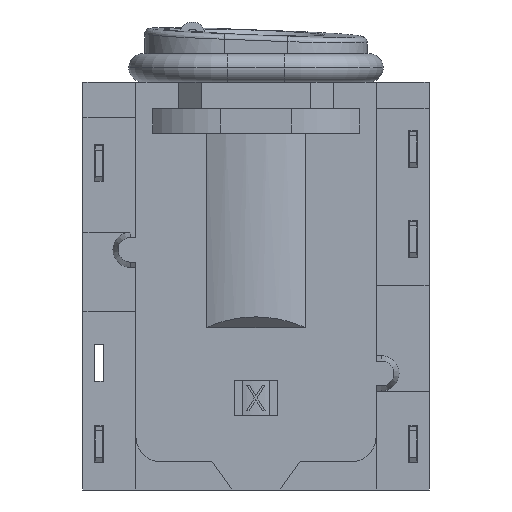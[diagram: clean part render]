
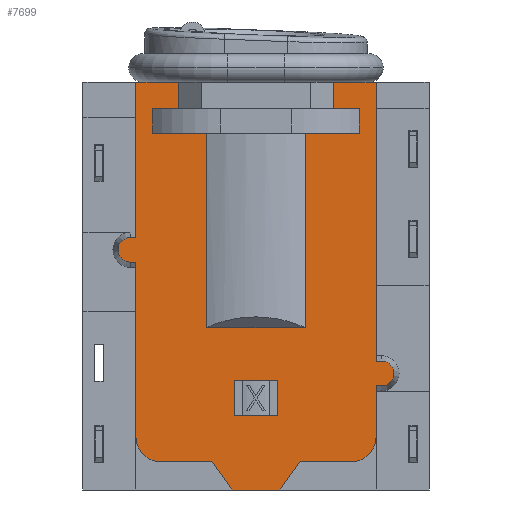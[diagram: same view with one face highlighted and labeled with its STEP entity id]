
A CAD part, front view. The second image highlights one B-rep face of the part: STEP entity #7699.
In plain terms, the highlighted planar face has unit normal (0, -1, 0).
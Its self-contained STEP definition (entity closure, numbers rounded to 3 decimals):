
#1677=DIRECTION('',(-1.,0.,0.));
#1678=VECTOR('',#1677,1.2);
#1679=CARTESIAN_POINT('',(0.6,-1.8,-5.05));
#1680=LINE('',#1679,#1678);
#1681=DIRECTION('',(0.,0.,-1.));
#1682=VECTOR('',#1681,1.);
#1683=CARTESIAN_POINT('',(0.6,-1.8,-4.05));
#1684=LINE('',#1683,#1682);
#1685=DIRECTION('',(1.,0.,0.));
#1686=VECTOR('',#1685,1.2);
#1687=CARTESIAN_POINT('',(-0.6,-1.8,-4.05));
#1688=LINE('',#1687,#1686);
#1689=DIRECTION('',(0.,0.,1.));
#1690=VECTOR('',#1689,1.);
#1691=CARTESIAN_POINT('',(-0.6,-1.8,-5.05));
#1692=LINE('',#1691,#1690);
#1693=DIRECTION('',(1.,0.,0.));
#1694=VECTOR('',#1693,1.2);
#1695=CARTESIAN_POINT('',(2.2,-1.8,4.4));
#1696=LINE('',#1695,#1694);
#1697=DIRECTION('',(0.,0.,-1.));
#1698=VECTOR('',#1697,7.9);
#1699=CARTESIAN_POINT('',(3.4,-1.8,4.4));
#1700=LINE('',#1699,#1698);
#1701=DIRECTION('',(0.,0.,-1.));
#1702=VECTOR('',#1701,1.45);
#1703=CARTESIAN_POINT('',(3.4,-1.8,-4.2));
#1704=LINE('',#1703,#1702);
#1705=CARTESIAN_POINT('',(2.7,-1.8,-5.65));
#1706=DIRECTION('',(0.,1.,0.));
#1707=DIRECTION('',(1.,0.,0.));
#1708=AXIS2_PLACEMENT_3D('',#1705,#1706,#1707);
#1710=DIRECTION('',(-1.,0.,0.));
#1711=VECTOR('',#1710,1.45);
#1712=CARTESIAN_POINT('',(2.7,-1.8,-6.35));
#1713=LINE('',#1712,#1711);
#1714=DIRECTION('',(-0.584,0.,-0.812));
#1715=VECTOR('',#1714,0.985);
#1716=CARTESIAN_POINT('',(1.25,-1.8,-6.35));
#1717=LINE('',#1716,#1715);
#1718=DIRECTION('',(-1.,0.,0.));
#1719=VECTOR('',#1718,1.35);
#1720=CARTESIAN_POINT('',(0.675,-1.8,-7.15));
#1721=LINE('',#1720,#1719);
#1722=DIRECTION('',(-0.584,0.,0.812));
#1723=VECTOR('',#1722,0.985);
#1724=CARTESIAN_POINT('',(-0.675,-1.8,-7.15));
#1725=LINE('',#1724,#1723);
#1726=DIRECTION('',(-1.,0.,0.));
#1727=VECTOR('',#1726,1.45);
#1728=CARTESIAN_POINT('',(-1.25,-1.8,-6.35));
#1729=LINE('',#1728,#1727);
#1730=CARTESIAN_POINT('',(-2.7,-1.8,-5.65));
#1731=DIRECTION('',(0.,1.,0.));
#1732=DIRECTION('',(0.,0.,-1.));
#1733=AXIS2_PLACEMENT_3D('',#1730,#1731,#1732);
#1735=DIRECTION('',(0.,0.,1.));
#1736=VECTOR('',#1735,4.95);
#1737=CARTESIAN_POINT('',(-3.4,-1.8,-5.65));
#1738=LINE('',#1737,#1736);
#1739=DIRECTION('',(0.,0.,1.));
#1740=VECTOR('',#1739,4.4);
#1741=CARTESIAN_POINT('',(-3.4,-1.8,0.));
#1742=LINE('',#1741,#1740);
#1743=DIRECTION('',(1.,0.,0.));
#1744=VECTOR('',#1743,1.2);
#1745=CARTESIAN_POINT('',(-3.4,-1.8,4.4));
#1746=LINE('',#1745,#1744);
#1747=DIRECTION('',(0.,0.,-1.));
#1748=VECTOR('',#1747,0.75);
#1749=CARTESIAN_POINT('',(-2.2,-1.8,4.4));
#1750=LINE('',#1749,#1748);
#1751=DIRECTION('',(0.,0.,-1.));
#1752=VECTOR('',#1751,0.75);
#1753=CARTESIAN_POINT('',(2.2,-1.8,4.4));
#1754=LINE('',#1753,#1752);
#2025=DIRECTION('',(-1.,0.,0.));
#2026=VECTOR('',#2025,0.15);
#2027=CARTESIAN_POINT('',(3.55,-1.8,-4.2));
#2028=LINE('',#2027,#2026);
#2041=CARTESIAN_POINT('',(3.55,-1.8,-3.85));
#2042=DIRECTION('',(0.,1.,0.));
#2043=DIRECTION('',(0.,0.,1.));
#2044=AXIS2_PLACEMENT_3D('',#2041,#2042,#2043);
#2051=DIRECTION('',(1.,0.,0.));
#2052=VECTOR('',#2051,0.15);
#2053=CARTESIAN_POINT('',(3.4,-1.8,-3.5));
#2054=LINE('',#2053,#2052);
#2136=DIRECTION('',(1.,0.,0.));
#2137=VECTOR('',#2136,0.15);
#2138=CARTESIAN_POINT('',(-3.55,-1.8,0.));
#2139=LINE('',#2138,#2137);
#2152=CARTESIAN_POINT('',(-3.55,-1.8,-0.35));
#2153=DIRECTION('',(0.,1.,0.));
#2154=DIRECTION('',(0.,0.,-1.));
#2155=AXIS2_PLACEMENT_3D('',#2152,#2153,#2154);
#2162=DIRECTION('',(-1.,0.,0.));
#2163=VECTOR('',#2162,0.15);
#2164=CARTESIAN_POINT('',(-3.4,-1.8,-0.7));
#2165=LINE('',#2164,#2163);
#4047=DIRECTION('',(1.,0.,0.));
#4048=VECTOR('',#4047,0.721);
#4049=CARTESIAN_POINT('',(2.2,-1.8,3.65));
#4050=LINE('',#4049,#4048);
#4061=DIRECTION('',(1.,0.,0.));
#4062=VECTOR('',#4061,0.721);
#4063=CARTESIAN_POINT('',(-2.921,-1.8,3.65));
#4064=LINE('',#4063,#4062);
#4069=DIRECTION('',(0.,0.,1.));
#4070=VECTOR('',#4069,0.7);
#4071=CARTESIAN_POINT('',(2.921,-1.8,2.95));
#4072=LINE('',#4071,#4070);
#4082=DIRECTION('',(-1.,0.,0.));
#4083=VECTOR('',#4082,1.525);
#4084=CARTESIAN_POINT('',(2.921,-1.8,2.95));
#4085=LINE('',#4084,#4083);
#4091=DIRECTION('',(-1.,0.,0.));
#4092=VECTOR('',#4091,1.525);
#4093=CARTESIAN_POINT('',(-1.396,-1.8,2.95));
#4094=LINE('',#4093,#4092);
#4100=DIRECTION('',(0.,0.,1.));
#4101=VECTOR('',#4100,5.5);
#4102=CARTESIAN_POINT('',(-1.396,-1.8,-2.55));
#4103=LINE('',#4102,#4101);
#4104=DIRECTION('',(0.,0.,-1.));
#4105=VECTOR('',#4104,5.5);
#4106=CARTESIAN_POINT('',(1.396,-1.8,2.95));
#4107=LINE('',#4106,#4105);
#4116=DIRECTION('',(1.,0.,0.));
#4117=VECTOR('',#4116,2.793);
#4118=CARTESIAN_POINT('',(-1.396,-1.8,-2.55));
#4119=LINE('',#4118,#4117);
#4124=DIRECTION('',(0.,0.,-1.));
#4125=VECTOR('',#4124,0.7);
#4126=CARTESIAN_POINT('',(-2.921,-1.8,3.65));
#4127=LINE('',#4126,#4125);
#4494=CARTESIAN_POINT('',(-0.6,-1.8,-5.05));
#4495=CARTESIAN_POINT('',(-0.6,-1.8,-4.05));
#4496=VERTEX_POINT('',#4494);
#4497=VERTEX_POINT('',#4495);
#4512=CARTESIAN_POINT('',(0.6,-1.8,-4.05));
#4513=VERTEX_POINT('',#4512);
#4518=CARTESIAN_POINT('',(0.6,-1.8,-5.05));
#4519=VERTEX_POINT('',#4518);
#4558=CARTESIAN_POINT('',(-1.396,-1.8,-2.55));
#4559=CARTESIAN_POINT('',(1.396,-1.8,-2.55));
#4560=VERTEX_POINT('',#4558);
#4561=VERTEX_POINT('',#4559);
#4811=CARTESIAN_POINT('',(2.7,-1.8,-6.35));
#4812=CARTESIAN_POINT('',(1.25,-1.8,-6.35));
#4813=VERTEX_POINT('',#4811);
#4814=VERTEX_POINT('',#4812);
#4815=CARTESIAN_POINT('',(0.675,-1.8,-7.15));
#4816=VERTEX_POINT('',#4815);
#4817=CARTESIAN_POINT('',(-0.675,-1.8,-7.15));
#4818=VERTEX_POINT('',#4817);
#4819=CARTESIAN_POINT('',(-1.25,-1.8,-6.35));
#4820=VERTEX_POINT('',#4819);
#4821=CARTESIAN_POINT('',(-2.7,-1.8,-6.35));
#4822=VERTEX_POINT('',#4821);
#4823=CARTESIAN_POINT('',(3.4,-1.8,-5.65));
#4824=VERTEX_POINT('',#4823);
#4825=CARTESIAN_POINT('',(-3.4,-1.8,-5.65));
#4826=VERTEX_POINT('',#4825);
#4827=CARTESIAN_POINT('',(3.4,-1.8,4.4));
#4828=VERTEX_POINT('',#4827);
#4829=CARTESIAN_POINT('',(-3.4,-1.8,4.4));
#4830=VERTEX_POINT('',#4829);
#4831=CARTESIAN_POINT('',(-3.55,-1.8,-0.7));
#4832=CARTESIAN_POINT('',(-3.55,-1.8,0.));
#4833=VERTEX_POINT('',#4831);
#4834=VERTEX_POINT('',#4832);
#4839=CARTESIAN_POINT('',(-3.4,-1.8,0.));
#4840=VERTEX_POINT('',#4839);
#4843=CARTESIAN_POINT('',(-3.4,-1.8,-0.7));
#4844=VERTEX_POINT('',#4843);
#4847=CARTESIAN_POINT('',(3.55,-1.8,-3.5));
#4848=CARTESIAN_POINT('',(3.55,-1.8,-4.2));
#4849=VERTEX_POINT('',#4847);
#4850=VERTEX_POINT('',#4848);
#4855=CARTESIAN_POINT('',(3.4,-1.8,-4.2));
#4856=VERTEX_POINT('',#4855);
#4859=CARTESIAN_POINT('',(3.4,-1.8,-3.5));
#4860=VERTEX_POINT('',#4859);
#4863=CARTESIAN_POINT('',(2.921,-1.8,2.95));
#4864=CARTESIAN_POINT('',(1.396,-1.8,2.95));
#4865=VERTEX_POINT('',#4863);
#4866=VERTEX_POINT('',#4864);
#4867=CARTESIAN_POINT('',(-1.396,-1.8,2.95));
#4868=CARTESIAN_POINT('',(-2.921,-1.8,2.95));
#4869=VERTEX_POINT('',#4867);
#4870=VERTEX_POINT('',#4868);
#4871=CARTESIAN_POINT('',(2.921,-1.8,3.65));
#4872=VERTEX_POINT('',#4871);
#4873=CARTESIAN_POINT('',(-2.921,-1.8,3.65));
#4874=VERTEX_POINT('',#4873);
#4899=CARTESIAN_POINT('',(2.2,-1.8,4.4));
#4901=VERTEX_POINT('',#4899);
#4904=CARTESIAN_POINT('',(-2.2,-1.8,4.4));
#4906=VERTEX_POINT('',#4904);
#4907=CARTESIAN_POINT('',(2.2,-1.8,3.65));
#4908=VERTEX_POINT('',#4907);
#4909=CARTESIAN_POINT('',(-2.2,-1.8,3.65));
#4910=VERTEX_POINT('',#4909);
#7625=CARTESIAN_POINT('',(3.55,-1.8,-3.85));
#7626=DIRECTION('',(0.,1.,0.));
#7627=DIRECTION('',(0.,0.,1.));
#7628=AXIS2_PLACEMENT_3D('',#7625,#7626,#7627);
#7629=PLANE('',#7628);
#7630=ORIENTED_EDGE('',*,*,#7558,.T.);
#7632=ORIENTED_EDGE('',*,*,#7631,.T.);
#7634=ORIENTED_EDGE('',*,*,#7633,.T.);
#7636=ORIENTED_EDGE('',*,*,#7635,.T.);
#7638=ORIENTED_EDGE('',*,*,#7637,.T.);
#7640=ORIENTED_EDGE('',*,*,#7639,.T.);
#7642=ORIENTED_EDGE('',*,*,#7641,.T.);
#7644=ORIENTED_EDGE('',*,*,#7643,.T.);
#7646=ORIENTED_EDGE('',*,*,#7645,.T.);
#7648=ORIENTED_EDGE('',*,*,#7647,.T.);
#7650=ORIENTED_EDGE('',*,*,#7649,.T.);
#7652=ORIENTED_EDGE('',*,*,#7651,.T.);
#7654=ORIENTED_EDGE('',*,*,#7653,.T.);
#7656=ORIENTED_EDGE('',*,*,#7655,.T.);
#7658=ORIENTED_EDGE('',*,*,#7657,.T.);
#7660=ORIENTED_EDGE('',*,*,#7659,.T.);
#7662=ORIENTED_EDGE('',*,*,#7661,.T.);
#7664=ORIENTED_EDGE('',*,*,#7663,.T.);
#7665=ORIENTED_EDGE('',*,*,#7534,.T.);
#7667=ORIENTED_EDGE('',*,*,#7666,.T.);
#7669=ORIENTED_EDGE('',*,*,#7668,.F.);
#7671=ORIENTED_EDGE('',*,*,#7670,.T.);
#7673=ORIENTED_EDGE('',*,*,#7672,.F.);
#7675=ORIENTED_EDGE('',*,*,#7674,.F.);
#7677=ORIENTED_EDGE('',*,*,#7676,.T.);
#7679=ORIENTED_EDGE('',*,*,#7678,.F.);
#7681=ORIENTED_EDGE('',*,*,#7680,.F.);
#7683=ORIENTED_EDGE('',*,*,#7682,.T.);
#7685=ORIENTED_EDGE('',*,*,#7684,.F.);
#7686=ORIENTED_EDGE('',*,*,#7616,.F.);
#7687=EDGE_LOOP('',(#7630,#7632,#7634,#7636,#7638,#7640,#7642,#7644,#7646,#7648,
#7650,#7652,#7654,#7656,#7658,#7660,#7662,#7664,#7665,#7667,#7669,#7671,#7673,
#7675,#7677,#7679,#7681,#7683,#7685,#7686));
#7688=FACE_OUTER_BOUND('',#7687,.F.);
#7690=ORIENTED_EDGE('',*,*,#7689,.F.);
#7692=ORIENTED_EDGE('',*,*,#7691,.F.);
#7694=ORIENTED_EDGE('',*,*,#7693,.F.);
#7696=ORIENTED_EDGE('',*,*,#7695,.F.);
#7697=EDGE_LOOP('',(#7690,#7692,#7694,#7696));
#7698=FACE_BOUND('',#7697,.F.);
#1709=CIRCLE('',#1708,0.7);
#1734=CIRCLE('',#1733,0.7);
#2045=CIRCLE('',#2044,0.35);
#2156=CIRCLE('',#2155,0.35);
#7534=EDGE_CURVE('',#4830,#4906,#1746,.T.);
#7558=EDGE_CURVE('',#4901,#4828,#1696,.T.);
#7616=EDGE_CURVE('',#4901,#4908,#1754,.T.);
#7631=EDGE_CURVE('',#4828,#4860,#1700,.T.);
#7633=EDGE_CURVE('',#4860,#4849,#2054,.T.);
#7635=EDGE_CURVE('',#4849,#4850,#2045,.T.);
#7637=EDGE_CURVE('',#4850,#4856,#2028,.T.);
#7639=EDGE_CURVE('',#4856,#4824,#1704,.T.);
#7641=EDGE_CURVE('',#4824,#4813,#1709,.T.);
#7643=EDGE_CURVE('',#4813,#4814,#1713,.T.);
#7645=EDGE_CURVE('',#4814,#4816,#1717,.T.);
#7647=EDGE_CURVE('',#4816,#4818,#1721,.T.);
#7649=EDGE_CURVE('',#4818,#4820,#1725,.T.);
#7651=EDGE_CURVE('',#4820,#4822,#1729,.T.);
#7653=EDGE_CURVE('',#4822,#4826,#1734,.T.);
#7655=EDGE_CURVE('',#4826,#4844,#1738,.T.);
#7657=EDGE_CURVE('',#4844,#4833,#2165,.T.);
#7659=EDGE_CURVE('',#4833,#4834,#2156,.T.);
#7661=EDGE_CURVE('',#4834,#4840,#2139,.T.);
#7663=EDGE_CURVE('',#4840,#4830,#1742,.T.);
#7666=EDGE_CURVE('',#4906,#4910,#1750,.T.);
#7668=EDGE_CURVE('',#4874,#4910,#4064,.T.);
#7670=EDGE_CURVE('',#4874,#4870,#4127,.T.);
#7672=EDGE_CURVE('',#4869,#4870,#4094,.T.);
#7674=EDGE_CURVE('',#4560,#4869,#4103,.T.);
#7676=EDGE_CURVE('',#4560,#4561,#4119,.T.);
#7678=EDGE_CURVE('',#4866,#4561,#4107,.T.);
#7680=EDGE_CURVE('',#4865,#4866,#4085,.T.);
#7682=EDGE_CURVE('',#4865,#4872,#4072,.T.);
#7684=EDGE_CURVE('',#4908,#4872,#4050,.T.);
#7689=EDGE_CURVE('',#4519,#4496,#1680,.T.);
#7691=EDGE_CURVE('',#4513,#4519,#1684,.T.);
#7693=EDGE_CURVE('',#4497,#4513,#1688,.T.);
#7695=EDGE_CURVE('',#4496,#4497,#1692,.T.);
#7699=ADVANCED_FACE('',(#7688,#7698),#7629,.F.);
